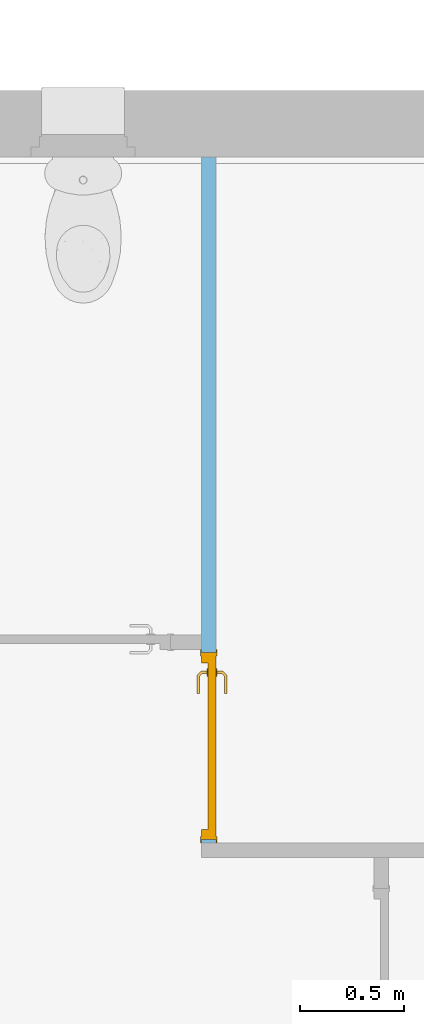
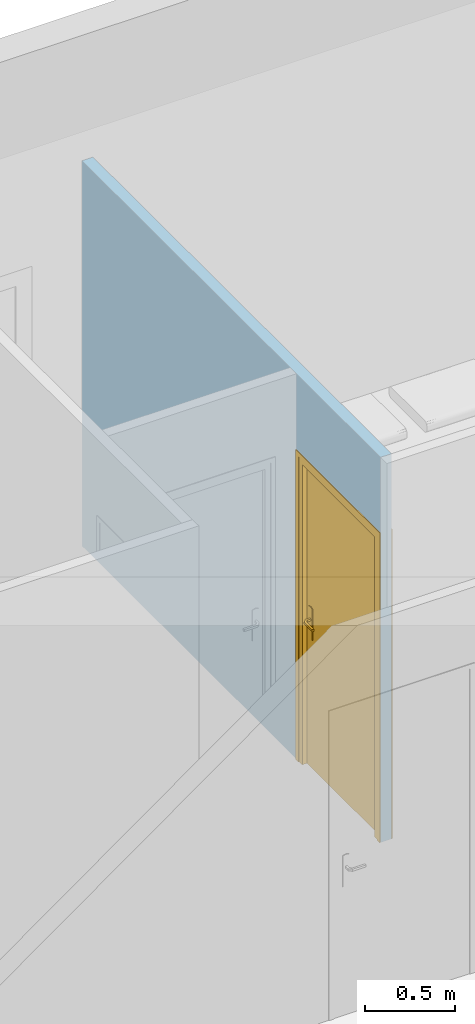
# One storey, part 12 of 18: 1 door, 1 opening, plus 1 element that does not belong to this part.
"""IFC2X3 building model written with IfcOpenShell, lengths in metres."""

from ifc_helpers import new_model, entity, si_unit, converted_unit, derived_unit, direction, frame, frame_2d, origin, place, context, subcontext, project, spatial, rectangle, extrude, faceted_brep, source, transform, mapped, material, material_list, layer, layer_set, layer_usage, type_object, type_shapes, element, fill, save


model = new_model("IFC2X3")

# Units and contexts
model_context = context("Model", 3, precision=1e-05, world=origin(), true_north=direction((6.12303176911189e-17, 1.0)))
body_context = subcontext(model_context, "Body", "Model", "MODEL_VIEW")
ifc_project = project(units=[si_unit("LENGTHUNIT", "METRE"), si_unit("AREAUNIT", "SQUARE_METRE"), si_unit("VOLUMEUNIT", "CUBIC_METRE"), converted_unit("PLANEANGLEUNIT", "DEGREE", entity("IfcRatioMeasure", 0.0174532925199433), si_unit("PLANEANGLEUNIT", "RADIAN"), dimensions=[0, 0, 0, 0, 0, 0, 0]), si_unit("MASSUNIT", "GRAM", prefix="KILO"), derived_unit("MASSDENSITYUNIT", [(si_unit("MASSUNIT", "GRAM", prefix="KILO"), 1), (si_unit("LENGTHUNIT", "METRE"), -3)]), derived_unit("MOMENTOFINERTIAUNIT", [(si_unit("LENGTHUNIT", "METRE"), 4)]), si_unit("TIMEUNIT", "SECOND"), si_unit("FREQUENCYUNIT", "HERTZ"), si_unit("THERMODYNAMICTEMPERATUREUNIT", "DEGREE_CELSIUS"), derived_unit("THERMALTRANSMITTANCEUNIT", [(si_unit("MASSUNIT", "GRAM", prefix="KILO"), 1), (si_unit("THERMODYNAMICTEMPERATUREUNIT", "KELVIN"), -1), (si_unit("TIMEUNIT", "SECOND"), -3)]), derived_unit("VOLUMETRICFLOWRATEUNIT", [(si_unit("LENGTHUNIT", "METRE"), 3), (si_unit("TIMEUNIT", "SECOND"), -1)]), si_unit("ELECTRICCURRENTUNIT", "AMPERE"), si_unit("ELECTRICVOLTAGEUNIT", "VOLT"), si_unit("POWERUNIT", "WATT"), si_unit("FORCEUNIT", "NEWTON", prefix="KILO"), si_unit("ILLUMINANCEUNIT", "LUX"), si_unit("LUMINOUSFLUXUNIT", "LUMEN"), si_unit("LUMINOUSINTENSITYUNIT", "CANDELA"), derived_unit("USERDEFINED", [(si_unit("MASSUNIT", "GRAM", prefix="KILO"), -1), (si_unit("LENGTHUNIT", "METRE"), -2), (si_unit("TIMEUNIT", "SECOND"), 3), (si_unit("LUMINOUSFLUXUNIT", "LUMEN"), 1)]), derived_unit("LINEARVELOCITYUNIT", [(si_unit("LENGTHUNIT", "METRE"), 1), (si_unit("TIMEUNIT", "SECOND"), -1)]), si_unit("PRESSUREUNIT", "PASCAL"), derived_unit("USERDEFINED", [(si_unit("LENGTHUNIT", "METRE"), -2), (si_unit("MASSUNIT", "GRAM", prefix="KILO"), 1), (si_unit("TIMEUNIT", "SECOND"), -2)]), derived_unit("LINEARFORCEUNIT", [(si_unit("MASSUNIT", "GRAM", prefix="KILO"), 1), (si_unit("LENGTHUNIT", "METRE"), 1), (si_unit("TIMEUNIT", "SECOND"), -2), (si_unit("LENGTHUNIT", "METRE"), -1)]), derived_unit("PLANARFORCEUNIT", [(si_unit("MASSUNIT", "GRAM", prefix="KILO"), 1), (si_unit("LENGTHUNIT", "METRE"), 1), (si_unit("TIMEUNIT", "SECOND"), -2), (si_unit("LENGTHUNIT", "METRE"), -2)])], contexts=[model_context])

# Site, building, storey
site_placement = place(None, origin())
site = spatial("IfcSite", under=ifc_project, at=site_placement, Name="Surface", CompositionType="ELEMENT")
building_placement = place(site_placement, origin())
building = spatial("IfcBuilding", under=site, at=building_placement, CompositionType="ELEMENT")
storey_placement = place(building_placement, origin())
storey = spatial("IfcBuildingStorey", under=building, at=storey_placement, Name="RDC", CompositionType="ELEMENT", Elevation=-1.94916083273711e-14)

# Wall, opening, door
ifc_material_1 = material(Name="Mur par défaut")
ifc_layer = layer(ifc_material_1, 0.07)
ifc_layer_set = layer_set([ifc_layer], Name="Mur de base:Int. Plâtre 70 mm")
ifc_layer_usage = layer_usage(ifc_layer_set, "AXIS2", "NEGATIVE", 0.035)
wall_type = type_object("IfcWallType", Name="Mur de base:Int. Plâtre 70 mm", PredefinedType="STANDARD", material=ifc_layer_set)
wall_placement = place(storey_placement, frame((-7.80329269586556, 6.66737977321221, 0.0), z_axis=(0.0, 0.0, 1.0), x_axis=(0.0, -1.0, 0.0)))
wall = element("IfcWallStandardCase", 1, at=wall_placement, inside=storey, type_object=wall_type, material=ifc_layer_usage, Name="Mur de base:Int. Plâtre 70 mm", ObjectType="Mur de base:Int. Plâtre 70 mm", context=body_context, shape_type="SweptSolid", body=[
    extrude(rectangle(XDim=3.3, YDim=0.0699999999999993, at=frame_2d((1.65, -3.40005801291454e-16), x_axis=(-1.0, 0.0))), origin(), (0.0, 0.0, 1.0), 2.6),
])
opening_placement = place(wall_placement, frame((2.38500000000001, -0.0349999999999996, 0.0)))
opening = element("IfcOpeningElement", 2, at=opening_placement, cuts=wall, Name="Int. Simple:PP (0.83m x 2.04m):1", ObjectType="Opening", context=body_context, shape_type="SweptSolid", body=[
    extrude(rectangle(XDim=2.075, YDim=0.9, at=frame_2d((1.0375, 0.45), x_axis=(1.0, 0.0))), frame((0.0, 0.0, 0.0), z_axis=(0.0, 1.0, 0.0), x_axis=(0.0, 0.0, 1.0)), (0.0, 0.0, 1.0), 0.07),
])
ifc_material_2 = material(Name="Finition Peinture - Blanc satiné")
ifc_material_3 = material(Name="Bois - Panneau de porte")
ifc_material_4 = material(Name="Bois - Cadre de porte")
ifc_material_list_1 = material_list([ifc_material_2, ifc_material_3, ifc_material_4])
ifc_material_list_2 = material_list([ifc_material_3, ifc_material_2, ifc_material_4, ifc_material_4])
door_style = type_object("IfcDoorStyle", Name="Int. Simple:PP (0.83m x 2.04m)", ConstructionType="NOTDEFINED", OperationType="NOTDEFINED", ParameterTakesPrecedence=False, Sizeable=False, material=ifc_material_list_2)
shared_shape = source(origin(), body_context, "Body", "Brep", [
    faceted_brep([(0.895000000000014, -0.00500000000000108, 0.870000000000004), (0.895000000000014, -0.00500000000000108, 1.08), (0.885352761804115, -0.00500000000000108, 1.08399601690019), (0.875000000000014, -0.00500000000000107, 1.08535898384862), (0.864647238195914, -0.00500000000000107, 1.08399601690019), (0.855000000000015, -0.00500000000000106, 1.08), (0.855000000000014, -0.00500000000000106, 0.870000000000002), (0.864647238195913, -0.00500000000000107, 0.866003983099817), (0.875000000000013, -0.00500000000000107, 0.86464101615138), (0.885352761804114, -0.00500000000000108, 0.866003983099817), (0.895000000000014, 0.0, 1.08), (0.895000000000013, 0.0, 0.870000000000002), (0.885352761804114, 0.0, 0.866003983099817), (0.875000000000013, 0.0, 0.86464101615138), (0.864647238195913, 0.0, 0.866003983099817), (0.855000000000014, 0.0, 0.870000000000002), (0.855000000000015, 0.0, 1.08), (0.864647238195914, 0.0, 1.08399601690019), (0.875000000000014, 0.0, 1.08535898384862), (0.885352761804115, 0.0, 1.08399601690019)], [[[0, 1, 2, 3, 4, 5, 6, 7, 8, 9]], [[10, 11, 12, 13, 14, 15, 16, 17, 18, 19]], [[9, 12, 11, 0]], [[8, 13, 12, 9]], [[7, 14, 13, 8]], [[7, 6, 15, 14]], [[15, 6, 5, 16]], [[4, 17, 16, 5]], [[3, 18, 17, 4]], [[2, 19, 18, 3]], [[2, 1, 10, 19]], [[11, 10, 1, 0]]]),
    faceted_brep([(0.895000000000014, 0.0399999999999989, 0.870000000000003), (0.895000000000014, 0.0399999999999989, 1.08), (0.885352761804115, 0.0399999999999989, 1.08399601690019), (0.875000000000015, 0.0399999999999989, 1.08535898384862), (0.864647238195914, 0.0399999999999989, 1.08399601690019), (0.855000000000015, 0.0399999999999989, 1.08), (0.855000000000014, 0.0399999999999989, 0.870000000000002), (0.864647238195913, 0.0399999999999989, 0.866003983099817), (0.875000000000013, 0.0399999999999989, 0.86464101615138), (0.885352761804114, 0.0399999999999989, 0.866003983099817), (0.875000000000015, 0.0449999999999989, 1.08535898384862), (0.885352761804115, 0.0449999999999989, 1.08399601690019), (0.895000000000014, 0.0449999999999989, 1.08), (0.895000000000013, 0.0449999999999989, 0.870000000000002), (0.885352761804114, 0.0449999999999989, 0.866003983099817), (0.875000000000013, 0.0449999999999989, 0.86464101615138), (0.864647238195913, 0.0449999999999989, 0.866003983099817), (0.855000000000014, 0.0449999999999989, 0.870000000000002), (0.855000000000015, 0.0449999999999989, 1.08), (0.864647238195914, 0.0449999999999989, 1.08399601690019)], [[[0, 1, 2, 3, 4, 5, 6, 7, 8, 9]], [[10, 11, 12, 13, 14, 15, 16, 17, 18, 19]], [[4, 19, 18, 5]], [[3, 10, 19, 4]], [[2, 11, 10, 3]], [[2, 1, 12, 11]], [[13, 12, 1, 0]], [[9, 14, 13, 0]], [[8, 15, 14, 9]], [[7, 16, 15, 8]], [[7, 6, 17, 16]], [[17, 6, 5, 18]]]),
    faceted_brep([(0.872974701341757, -0.00500000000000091, 1.00778044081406), (0.877025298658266, -0.00500000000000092, 1.00778044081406), (0.881000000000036, -0.00500000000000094, 1.00699999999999), (0.881000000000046, -0.00500000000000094, 0.992999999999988), (0.877025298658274, -0.00500000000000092, 0.99221955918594), (0.872974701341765, -0.00500000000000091, 0.992219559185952), (0.868999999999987, -0.00500000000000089, 0.993000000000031), (0.868999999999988, -0.00500000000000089, 1.007), (0.877025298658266, -0.0310045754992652, 1.00778044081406), (0.881000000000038, -0.0326509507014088, 1.007), (0.872974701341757, -0.0293267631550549, 1.00778044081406), (0.859298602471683, -0.0430028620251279, 1.00778044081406), (0.860976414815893, -0.0470534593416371, 1.00778044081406), (0.868999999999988, -0.0276803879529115, 1.007), (0.868999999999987, -0.0276803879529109, 0.993000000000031), (0.872974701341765, -0.0293267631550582, 0.992219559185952), (0.877025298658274, -0.0310045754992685, 0.99221955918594), (0.860976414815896, -0.0470534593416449, 0.99221955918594), (0.859298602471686, -0.0430028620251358, 0.992219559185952), (0.881000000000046, -0.0326509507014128, 0.992999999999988), (0.862622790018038, -0.051028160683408, 1.007), (0.85765222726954, -0.0390281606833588, 1.007), (0.857652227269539, -0.0390281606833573, 0.993000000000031), (0.862622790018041, -0.0510281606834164, 0.992999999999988), (0.774981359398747, -0.0510281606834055, 1.007), (0.774981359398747, -0.0470534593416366, 1.00778044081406), (0.774981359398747, -0.0430028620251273, 1.00778044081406), (0.774981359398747, -0.0390281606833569, 1.00699999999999), (0.774981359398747, -0.0390281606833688, 0.993000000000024), (0.774981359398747, -0.0430028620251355, 0.992219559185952), (0.774981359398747, -0.0470534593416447, 0.99221955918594), (0.774981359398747, -0.0510281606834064, 0.992999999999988), (0.81713998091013, -0.045028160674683, 1.0078786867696), (0.822692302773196, -0.051028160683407, 1.007), (0.816316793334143, -0.039028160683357, 1.007), (0.816316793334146, -0.039028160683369, 0.993000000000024), (0.817139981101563, -0.0450281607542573, 0.992121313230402), (0.822692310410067, -0.0510281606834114, 0.992999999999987)], [[[0, 1, 2, 3, 4, 5, 6, 7]], [[2, 1, 8, 9]], [[1, 0, 10, 11, 12, 8]], [[0, 7, 13, 10]], [[14, 13, 7, 6]], [[5, 15, 14, 6]], [[5, 4, 16, 17, 18, 15]], [[3, 19, 16, 4]], [[9, 19, 3, 2]], [[9, 8, 12, 20]], [[10, 13, 21, 11]], [[22, 21, 13, 14]], [[14, 15, 18, 22]], [[16, 19, 23, 17]], [[20, 23, 19, 9]], [[24, 25, 26, 27, 28, 29, 30, 31]], [[32, 25, 33]], [[33, 25, 24]], [[33, 20, 12]], [[11, 34, 32]], [[34, 11, 21]], [[27, 26, 34]], [[32, 26, 25]], [[32, 34, 26]], [[32, 33, 12]], [[11, 32, 12]], [[21, 22, 35, 28, 27, 34]], [[36, 29, 35]], [[30, 36, 37]], [[18, 35, 22]], [[29, 28, 35]], [[30, 37, 31]], [[37, 17, 23]], [[36, 17, 37]], [[36, 18, 17]], [[36, 35, 18]], [[29, 36, 30]], [[23, 20, 33, 24, 31, 37]]]),
    faceted_brep([(0.872974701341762, 0.0449999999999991, 0.992219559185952), (0.877025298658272, 0.044999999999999, 0.99221955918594), (0.881000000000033, 0.044999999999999, 0.992999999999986), (0.881000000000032, 0.044999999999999, 1.007), (0.877025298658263, 0.044999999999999, 1.00778044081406), (0.872974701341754, 0.0449999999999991, 1.00778044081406), (0.868999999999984, 0.0449999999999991, 1.007), (0.868999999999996, 0.0449999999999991, 0.993000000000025), (0.868999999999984, 0.067485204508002, 1.007), (0.868999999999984, 0.0674852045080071, 0.993000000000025), (0.872974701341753, 0.0691315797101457, 1.00778044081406), (0.877025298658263, 0.070809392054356, 1.00778044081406), (0.860838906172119, 0.0869957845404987, 1.00778044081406), (0.859161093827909, 0.0829451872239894, 1.00778044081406), (0.881000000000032, 0.0724557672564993, 1.007), (0.881000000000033, 0.0724557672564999, 0.992999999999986), (0.877025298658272, 0.0708093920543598, 0.99221955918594), (0.872974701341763, 0.0691315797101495, 0.992219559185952), (0.859161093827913, 0.0829451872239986, 0.992219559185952), (0.860838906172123, 0.0869957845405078, 0.99221955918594), (0.857514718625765, 0.0789704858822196, 1.007), (0.857514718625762, 0.0789704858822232, 0.993000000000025), (0.862485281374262, 0.0909704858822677, 1.007), (0.862485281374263, 0.0909704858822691, 0.992999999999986), (0.77495421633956, 0.0829451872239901, 1.00778044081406), (0.77495421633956, 0.0869957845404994, 1.00778044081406), (0.77495421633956, 0.0909704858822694, 1.007), (0.77495421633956, 0.0909704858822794, 0.992999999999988), (0.77495421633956, 0.086995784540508, 0.99221955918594), (0.77495421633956, 0.0829451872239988, 0.992219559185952), (0.77495421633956, 0.0789704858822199, 0.993000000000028), (0.77495421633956, 0.0789704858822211, 1.007), (0.816234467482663, 0.0789704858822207, 1.007), (0.816234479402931, 0.0789704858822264, 0.993000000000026), (0.817057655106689, 0.0849704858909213, 1.0078786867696), (0.822554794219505, 0.0909704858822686, 1.007), (0.822554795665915, 0.0909704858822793, 0.992999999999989), (0.817057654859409, 0.0849704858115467, 0.992121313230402)], [[[0, 1, 2, 3, 4, 5, 6, 7]], [[8, 9, 7, 6]], [[5, 10, 8, 6]], [[5, 4, 11, 12, 13, 10]], [[3, 14, 11, 4]], [[14, 3, 2, 15]], [[2, 1, 16, 15]], [[1, 0, 17, 18, 19, 16]], [[0, 7, 9, 17]], [[20, 21, 9, 8]], [[8, 10, 13, 20]], [[14, 22, 12, 11]], [[23, 22, 14, 15]], [[15, 16, 19, 23]], [[17, 9, 21, 18]], [[24, 25, 26, 27, 28, 29, 30, 31]], [[21, 20, 32, 31, 30, 33]], [[34, 24, 32]], [[25, 34, 35]], [[13, 32, 20]], [[24, 31, 32]], [[25, 35, 26]], [[35, 12, 22]], [[34, 12, 35]], [[34, 13, 12]], [[34, 32, 13]], [[24, 34, 25]], [[22, 23, 36, 27, 26, 35]], [[37, 28, 36]], [[36, 28, 27]], [[36, 23, 19]], [[18, 33, 37]], [[33, 18, 21]], [[30, 29, 33]], [[37, 29, 28]], [[37, 33, 29]], [[37, 36, 19]], [[18, 37, 19]]]),
    faceted_brep([(0.935000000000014, 0.04, 2.04), (0.935000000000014, 0.04, 0.0), (0.105000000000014, 0.04, 0.0), (0.105000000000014, 0.04, 2.04), (0.935000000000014, 0.0, 2.04), (0.105000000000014, 0.0, 2.04), (0.105000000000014, 0.0, 0.0), (0.935000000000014, 0.0, 0.0)], [[[0, 1, 2, 3]], [[4, 5, 6, 7]], [[3, 5, 4, 0]], [[2, 6, 5, 3]], [[1, 7, 6, 2]], [[0, 4, 7, 1]]]),
    faceted_brep([(0.970000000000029, 0.0, 0.0), (0.935000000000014, 0.0, 0.0), (0.935000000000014, 0.04, 0.0), (0.920000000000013, 0.04, 0.0), (0.920000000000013, 0.0699999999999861, 0.0), (0.970000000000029, 0.0699999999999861, 0.0), (0.970000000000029, 0.0699999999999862, 2.07500000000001), (0.970000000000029, 0.0, 2.07500000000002), (0.920000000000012, 0.0699999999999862, 2.025), (0.120000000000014, 0.0699999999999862, 2.025), (0.120000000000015, 0.0699999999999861, 0.0), (0.0699999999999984, 0.0699999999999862, 0.0), (0.0699999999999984, 0.0699999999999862, 2.07500000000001), (0.920000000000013, 0.04, 2.025), (0.935000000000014, 0.04, 2.04), (0.105000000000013, 0.04, 2.04), (0.105000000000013, 0.04, 0.0), (0.120000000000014, 0.04, 0.0), (0.120000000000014, 0.04, 2.025), (0.935000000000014, 0.0, 2.04), (0.0699999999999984, 0.0, 2.07500000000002), (0.0699999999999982, 0.0, 0.0), (0.105000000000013, 0.0, 0.0), (0.105000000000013, 0.0, 2.04)], [[[0, 1, 2, 3, 4, 5]], [[5, 6, 7, 0]], [[4, 8, 9, 10, 11, 12, 6, 5]], [[3, 13, 8, 4]], [[2, 14, 15, 16, 17, 18, 13, 3]], [[1, 19, 14, 2]], [[0, 7, 20, 21, 22, 23, 19, 1]], [[12, 11, 21, 20]], [[21, 11, 10, 17, 16, 22]], [[18, 17, 10, 9]], [[23, 22, 16, 15]], [[6, 12, 20, 7]], [[13, 18, 9, 8]], [[19, 23, 15, 14]]]),
    faceted_brep([(0.955000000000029, 0.0699999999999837, 0.0), (0.955000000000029, 0.0749999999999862, 0.0), (0.985000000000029, 0.0749999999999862, 0.0), (0.985000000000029, 0.0699999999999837, 0.0), (0.985000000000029, 0.0699999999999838, 2.09000000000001), (0.0550000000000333, 0.0699999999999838, 2.09000000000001), (0.0550000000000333, 0.0699999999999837, 0.0), (0.0850000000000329, 0.0699999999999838, 0.0), (0.0850000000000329, 0.0699999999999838, 2.06000000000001), (0.955000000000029, 0.0699999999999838, 2.06000000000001), (0.985000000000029, 0.0749999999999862, 2.09000000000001), (0.955000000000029, 0.0749999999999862, 2.06000000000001), (0.0850000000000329, 0.0749999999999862, 2.06000000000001), (0.0850000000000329, 0.0749999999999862, 0.0), (0.0550000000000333, 0.0749999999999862, 0.0), (0.0550000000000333, 0.0749999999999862, 2.09000000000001)], [[[0, 1, 2, 3]], [[3, 4, 5, 6, 7, 8, 9, 0]], [[2, 10, 4, 3]], [[1, 11, 12, 13, 14, 15, 10, 2]], [[0, 9, 11, 1]], [[7, 6, 14, 13]], [[8, 7, 13, 12]], [[15, 14, 6, 5]], [[10, 15, 5, 4]], [[9, 8, 12, 11]]]),
    faceted_brep([(0.985000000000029, -0.005, 0.0), (0.985000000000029, -0.005, 2.09000000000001), (0.0550000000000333, -0.005, 2.09000000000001), (0.0550000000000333, -0.005, 0.0), (0.0850000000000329, -0.005, 0.0), (0.0850000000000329, -0.005, 2.06000000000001), (0.955000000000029, -0.005, 2.06000000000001), (0.955000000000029, -0.005, 0.0), (0.985000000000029, 0.0, 0.0), (0.985000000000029, 0.0, 2.09000000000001), (0.955000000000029, 0.0, 0.0), (0.955000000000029, 0.0, 2.06000000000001), (0.0850000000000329, 0.0, 2.06000000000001), (0.0850000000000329, 0.0, 0.0), (0.0550000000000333, 0.0, 0.0), (0.0550000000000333, 0.0, 2.09000000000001)], [[[0, 1, 2, 3, 4, 5, 6, 7]], [[8, 9, 1, 0]], [[10, 11, 12, 13, 14, 15, 9, 8]], [[7, 6, 11, 10]], [[5, 4, 13, 12]], [[15, 14, 3, 2]], [[9, 15, 2, 1]], [[6, 5, 12, 11]], [[4, 3, 14, 13]], [[7, 10, 8, 0]]]),
])
type_shapes(door_style, [shared_shape])
door_placement = place(opening_placement, frame((0.970000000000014, 0.0699999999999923, 0.0), z_axis=(0.0, 0.0, 1.0), x_axis=(-1.0, 0.0, 0.0)))
door = element("IfcDoor", 3, at=door_placement, inside=storey, type_object=door_style, material=ifc_material_list_1, Name="Int. Simple:PP (0.83m x 2.04m)", ObjectType="Int. Simple:PP (0.83m x 2.04m)", OverallHeight=2.075, OverallWidth=0.9, context=body_context, shape_type="MappedRepresentation", body=[
    mapped(shared_shape, transform((0.0, 0.0, 0.0), scale=1.0)),
])
fill(opening, door)

save(model, "model.ifc")
